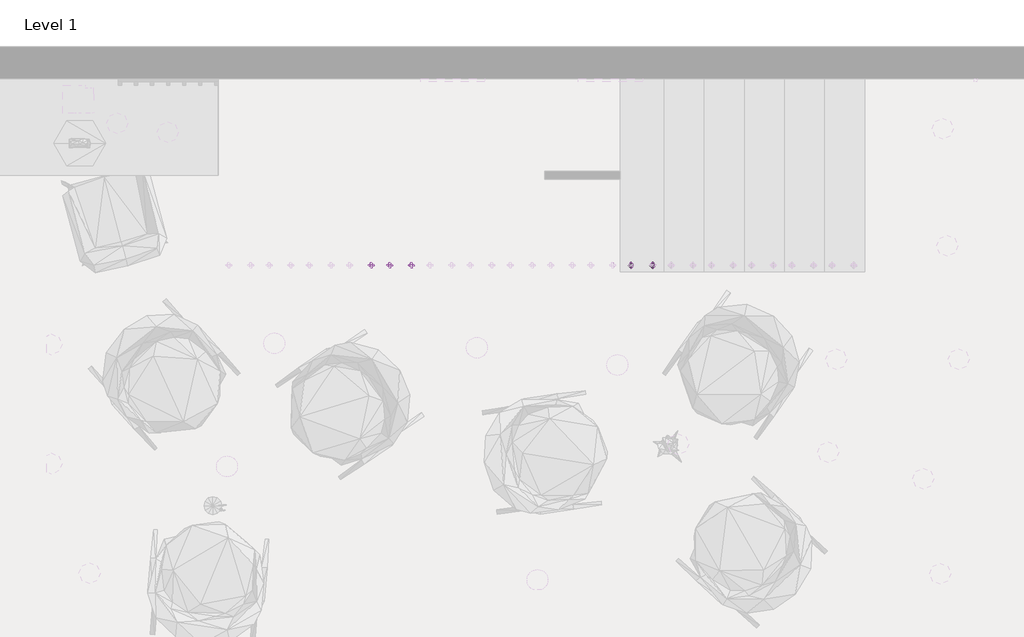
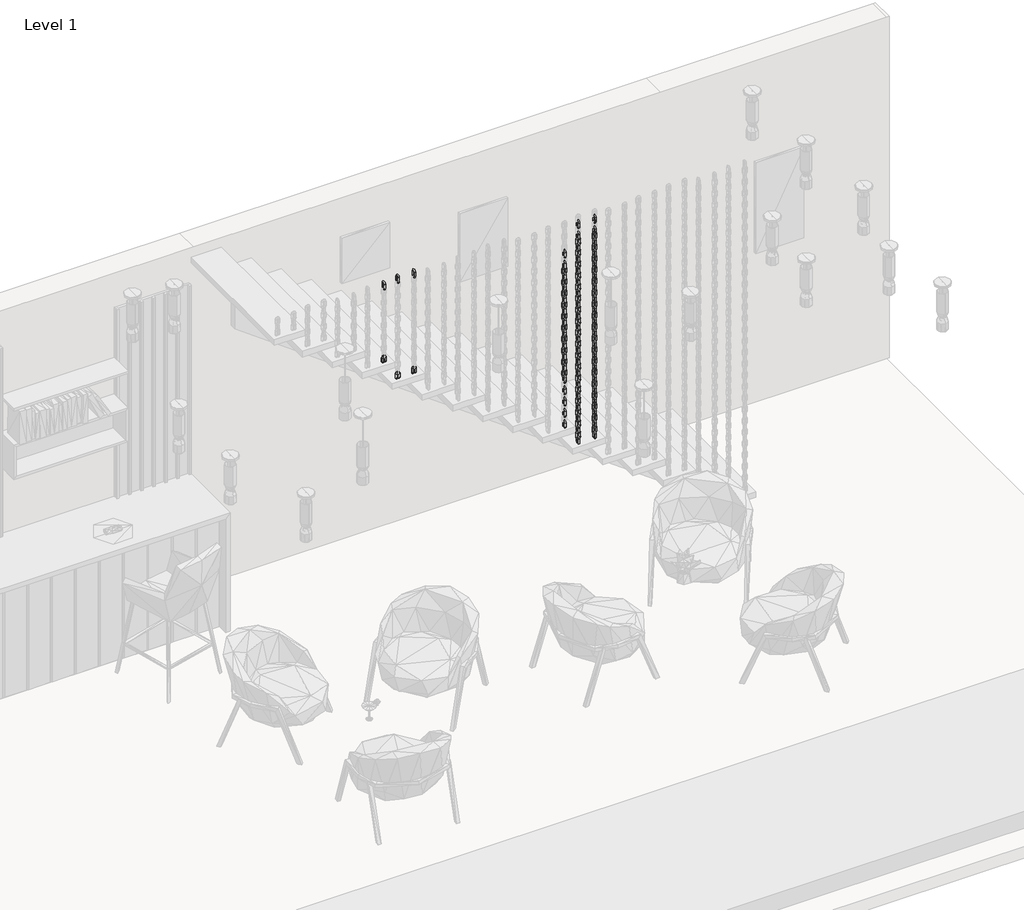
# One storey, part 6 of 12: 108 proxies.
"""IFC4 building model written with IfcOpenShell, lengths in millimetres."""

from ifc_helpers import new_model, si_unit, origin, place, context, project, spatial, transform, mapped, element, save
from components import family1_family1_50133a43, family1_family1_d3af85bb

model = new_model("IFC4")

# Units and contexts
model_context = context("Model", 3, world=origin())
ifc_project = project(units=[si_unit("LENGTHUNIT", "METRE", prefix="MILLI")], contexts=[model_context])

# Site, building, storey
site = spatial("IfcSite", under=ifc_project)
building = spatial("IfcBuilding", under=site)
storey = spatial("IfcBuildingStorey", under=building, Name="Level 1", Elevation=0.0)

# Proxies
placement = place(None, origin())
family1_family1_shape = family1_family1_50133a43(model_context)
element("IfcBuildingElementProxy", 1, Name="Family1 : Family1", ObjectType="Family1 : Family1", at=placement, inside=storey, context=model_context, shape_type="MappedRepresentation", body=[
    mapped(family1_family1_shape, transform((13750.1232124, 1139.760891, 326.9506853), x_axis=(-0.03315618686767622, 0.0, 0.9994501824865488), y_axis=(-0.9994501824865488, 0.0, -0.03315618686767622), z_axis=(0.0, -1.0, 0.0))),
])
element("IfcBuildingElementProxy", 2, Name="Family1 : Family1", ObjectType="Family1 : Family1", at=placement, inside=storey, context=model_context, shape_type="MappedRepresentation", body=[
    mapped(family1_family1_shape, transform((13750.1232124, 1139.760891, 426.9506853), x_axis=(-0.03315618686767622, 0.0, 0.9994501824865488), y_axis=(-0.9994501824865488, 0.0, -0.03315618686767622), z_axis=(0.0, -1.0, 0.0))),
])
element("IfcBuildingElementProxy", 3, Name="Family1 : Family1", ObjectType="Family1 : Family1", at=placement, inside=storey, context=model_context, shape_type="MappedRepresentation", body=[
    mapped(family1_family1_shape, transform((13750.1232124, 1139.760891, 526.9506853), x_axis=(-0.03315618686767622, 0.0, 0.9994501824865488), y_axis=(-0.9994501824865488, 0.0, -0.03315618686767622), z_axis=(0.0, -1.0, 0.0))),
])
element("IfcBuildingElementProxy", 4, Name="Family1 : Family1", ObjectType="Family1 : Family1", at=placement, inside=storey, context=model_context, shape_type="MappedRepresentation", body=[
    mapped(family1_family1_shape, transform((13750.1232124, 1139.760891, 626.9506853), x_axis=(-0.03315618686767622, 0.0, 0.9994501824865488), y_axis=(-0.9994501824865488, 0.0, -0.03315618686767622), z_axis=(0.0, -1.0, 0.0))),
])
element("IfcBuildingElementProxy", 5, Name="Family1 : Family1", ObjectType="Family1 : Family1", at=placement, inside=storey, context=model_context, shape_type="MappedRepresentation", body=[
    mapped(family1_family1_shape, transform((13750.1232124, 1139.760891, 726.9506853), x_axis=(-0.03315618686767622, 0.0, 0.9994501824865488), y_axis=(-0.9994501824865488, 0.0, -0.03315618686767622), z_axis=(0.0, -1.0, 0.0))),
])
element("IfcBuildingElementProxy", 6, Name="Family1 : Family1", ObjectType="Family1 : Family1", at=placement, inside=storey, context=model_context, shape_type="MappedRepresentation", body=[
    mapped(family1_family1_shape, transform((13750.1232124, 1139.760891, 826.9506853), x_axis=(-0.03315618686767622, 0.0, 0.9994501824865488), y_axis=(-0.9994501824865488, 0.0, -0.03315618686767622), z_axis=(0.0, -1.0, 0.0))),
])
element("IfcBuildingElementProxy", 7, Name="Family1 : Family1", ObjectType="Family1 : Family1", at=placement, inside=storey, context=model_context, shape_type="MappedRepresentation", body=[
    mapped(family1_family1_shape, transform((13750.1232124, 1139.760891, 926.9506853), x_axis=(-0.03315618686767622, 0.0, 0.9994501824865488), y_axis=(-0.9994501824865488, 0.0, -0.03315618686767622), z_axis=(0.0, -1.0, 0.0))),
])
element("IfcBuildingElementProxy", 8, Name="Family1 : Family1", ObjectType="Family1 : Family1", at=placement, inside=storey, context=model_context, shape_type="MappedRepresentation", body=[
    mapped(family1_family1_shape, transform((13750.1232124, 1139.760891, 1026.9506853), x_axis=(-0.03315618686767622, 0.0, 0.9994501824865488), y_axis=(-0.9994501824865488, 0.0, -0.03315618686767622), z_axis=(0.0, -1.0, 0.0))),
])
element("IfcBuildingElementProxy", 9, Name="Family1 : Family1", ObjectType="Family1 : Family1", at=placement, inside=storey, context=model_context, shape_type="MappedRepresentation", body=[
    mapped(family1_family1_shape, transform((13750.1232124, 1139.760891, 1126.9506853), x_axis=(-0.03315618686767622, 0.0, 0.9994501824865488), y_axis=(-0.9994501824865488, 0.0, -0.03315618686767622), z_axis=(0.0, -1.0, 0.0))),
])
element("IfcBuildingElementProxy", 10, Name="Family1 : Family1", ObjectType="Family1 : Family1", at=placement, inside=storey, context=model_context, shape_type="MappedRepresentation", body=[
    mapped(family1_family1_shape, transform((13750.1232124, 1139.760891, 1226.9506853), x_axis=(-0.03315618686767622, 0.0, 0.9994501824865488), y_axis=(-0.9994501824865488, 0.0, -0.03315618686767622), z_axis=(0.0, -1.0, 0.0))),
])
element("IfcBuildingElementProxy", 11, Name="Family1 : Family1", ObjectType="Family1 : Family1", at=placement, inside=storey, context=model_context, shape_type="MappedRepresentation", body=[
    mapped(family1_family1_shape, transform((13750.1232124, 1139.760891, 226.9506853), x_axis=(-0.03315618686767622, 0.0, 0.9994501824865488), y_axis=(-0.9994501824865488, 0.0, -0.03315618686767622), z_axis=(0.0, -1.0, 0.0))),
])
element("IfcBuildingElementProxy", 12, Name="Family1 : Family1", ObjectType="Family1 : Family1", at=placement, inside=storey, context=model_context, shape_type="MappedRepresentation", body=[
    mapped(family1_family1_shape, transform((13750.1232124, 1139.760891, 126.9506853), x_axis=(-0.03315618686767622, 0.0, 0.9994501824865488), y_axis=(-0.9994501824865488, 0.0, -0.03315618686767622), z_axis=(0.0, -1.0, 0.0))),
])
element("IfcBuildingElementProxy", 13, Name="Family1 : Family1", ObjectType="Family1 : Family1", at=placement, inside=storey, context=model_context, shape_type="MappedRepresentation", body=[
    mapped(family1_family1_shape, transform((13750.1232124, 1139.760891, 26.9506853), x_axis=(-0.03315618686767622, 0.0, 0.9994501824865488), y_axis=(-0.9994501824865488, 0.0, -0.03315618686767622), z_axis=(0.0, -1.0, 0.0))),
])
element("IfcBuildingElementProxy", 14, Name="Family1 : Family1", ObjectType="Family1 : Family1", at=placement, inside=storey, context=model_context, shape_type="MappedRepresentation", body=[
    mapped(family1_family1_shape, transform((13750.1232124, 1139.760891, -73.0493147), x_axis=(-0.03315618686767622, 0.0, 0.9994501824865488), y_axis=(-0.9994501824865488, 0.0, -0.03315618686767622), z_axis=(0.0, -1.0, 0.0))),
])
element("IfcBuildingElementProxy", 15, Name="Family1 : Family1", ObjectType="Family1 : Family1", at=placement, inside=storey, context=model_context, shape_type="MappedRepresentation", body=[
    mapped(family1_family1_shape, transform((13750.1232124, 1139.760891, -173.0493147), x_axis=(-0.03315618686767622, 0.0, 0.9994501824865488), y_axis=(-0.9994501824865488, 0.0, -0.03315618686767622), z_axis=(0.0, -1.0, 0.0))),
])
element("IfcBuildingElementProxy", 16, Name="Family1 : Family1", ObjectType="Family1 : Family1", at=placement, inside=storey, context=model_context, shape_type="MappedRepresentation", body=[
    mapped(family1_family1_shape, transform((13750.1232124, 1139.760891, 1326.9506853), x_axis=(-0.03315618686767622, 0.0, 0.9994501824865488), y_axis=(-0.9994501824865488, 0.0, -0.03315618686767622), z_axis=(0.0, -1.0, 0.0))),
])
element("IfcBuildingElementProxy", 17, Name="Family1 : Family1", ObjectType="Family1 : Family1", at=placement, inside=storey, context=model_context, shape_type="MappedRepresentation", body=[
    mapped(family1_family1_shape, transform((13750.1232124, 1139.760891, 1426.9506853), x_axis=(-0.03315618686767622, 0.0, 0.9994501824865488), y_axis=(-0.9994501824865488, 0.0, -0.03315618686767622), z_axis=(0.0, -1.0, 0.0))),
])
element("IfcBuildingElementProxy", 18, Name="Family1 : Family1", ObjectType="Family1 : Family1", at=placement, inside=storey, context=model_context, shape_type="MappedRepresentation", body=[
    mapped(family1_family1_shape, transform((13750.1232124, 1139.760891, 1526.9506853), x_axis=(-0.03315618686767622, 0.0, 0.9994501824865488), y_axis=(-0.9994501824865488, 0.0, -0.03315618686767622), z_axis=(0.0, -1.0, 0.0))),
])
element("IfcBuildingElementProxy", 19, Name="Family1 : Family1", ObjectType="Family1 : Family1", at=placement, inside=storey, context=model_context, shape_type="MappedRepresentation", body=[
    mapped(family1_family1_shape, transform((13750.1232124, 1139.760891, 1626.9506853), x_axis=(-0.03315618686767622, 0.0, 0.9994501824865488), y_axis=(-0.9994501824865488, 0.0, -0.03315618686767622), z_axis=(0.0, -1.0, 0.0))),
])
element("IfcBuildingElementProxy", 20, Name="Family1 : Family1", ObjectType="Family1 : Family1", at=placement, inside=storey, context=model_context, shape_type="MappedRepresentation", body=[
    mapped(family1_family1_shape, transform((13750.1232124, 1139.760891, 1726.9506853), x_axis=(-0.03315618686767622, 0.0, 0.9994501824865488), y_axis=(-0.9994501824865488, 0.0, -0.03315618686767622), z_axis=(0.0, -1.0, 0.0))),
])
element("IfcBuildingElementProxy", 21, Name="Family1 : Family1", ObjectType="Family1 : Family1", at=placement, inside=storey, context=model_context, shape_type="MappedRepresentation", body=[
    mapped(family1_family1_shape, transform((13615.1232124, 1139.760891, 326.9506853), x_axis=(-0.03315618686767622, 0.0, 0.9994501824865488), y_axis=(-0.9994501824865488, 0.0, -0.03315618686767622), z_axis=(0.0, -1.0, 0.0))),
])
element("IfcBuildingElementProxy", 22, Name="Family1 : Family1", ObjectType="Family1 : Family1", at=placement, inside=storey, context=model_context, shape_type="MappedRepresentation", body=[
    mapped(family1_family1_shape, transform((13615.1232124, 1139.760891, 426.9506853), x_axis=(-0.03315618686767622, 0.0, 0.9994501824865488), y_axis=(-0.9994501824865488, 0.0, -0.03315618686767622), z_axis=(0.0, -1.0, 0.0))),
])
element("IfcBuildingElementProxy", 23, Name="Family1 : Family1", ObjectType="Family1 : Family1", at=placement, inside=storey, context=model_context, shape_type="MappedRepresentation", body=[
    mapped(family1_family1_shape, transform((13615.1232124, 1139.760891, 526.9506853), x_axis=(-0.03315618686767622, 0.0, 0.9994501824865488), y_axis=(-0.9994501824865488, 0.0, -0.03315618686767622), z_axis=(0.0, -1.0, 0.0))),
])
element("IfcBuildingElementProxy", 24, Name="Family1 : Family1", ObjectType="Family1 : Family1", at=placement, inside=storey, context=model_context, shape_type="MappedRepresentation", body=[
    mapped(family1_family1_shape, transform((13615.1232124, 1139.760891, 626.9506853), x_axis=(-0.03315618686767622, 0.0, 0.9994501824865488), y_axis=(-0.9994501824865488, 0.0, -0.03315618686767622), z_axis=(0.0, -1.0, 0.0))),
])
element("IfcBuildingElementProxy", 25, Name="Family1 : Family1", ObjectType="Family1 : Family1", at=placement, inside=storey, context=model_context, shape_type="MappedRepresentation", body=[
    mapped(family1_family1_shape, transform((13615.1232124, 1139.760891, 726.9506853), x_axis=(-0.03315618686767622, 0.0, 0.9994501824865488), y_axis=(-0.9994501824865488, 0.0, -0.03315618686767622), z_axis=(0.0, -1.0, 0.0))),
])
element("IfcBuildingElementProxy", 26, Name="Family1 : Family1", ObjectType="Family1 : Family1", at=placement, inside=storey, context=model_context, shape_type="MappedRepresentation", body=[
    mapped(family1_family1_shape, transform((13615.1232124, 1139.760891, 826.9506853), x_axis=(-0.03315618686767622, 0.0, 0.9994501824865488), y_axis=(-0.9994501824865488, 0.0, -0.03315618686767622), z_axis=(0.0, -1.0, 0.0))),
])
element("IfcBuildingElementProxy", 27, Name="Family1 : Family1", ObjectType="Family1 : Family1", at=placement, inside=storey, context=model_context, shape_type="MappedRepresentation", body=[
    mapped(family1_family1_shape, transform((13615.1232124, 1139.760891, 926.9506853), x_axis=(-0.03315618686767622, 0.0, 0.9994501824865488), y_axis=(-0.9994501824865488, 0.0, -0.03315618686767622), z_axis=(0.0, -1.0, 0.0))),
])
element("IfcBuildingElementProxy", 28, Name="Family1 : Family1", ObjectType="Family1 : Family1", at=placement, inside=storey, context=model_context, shape_type="MappedRepresentation", body=[
    mapped(family1_family1_shape, transform((13615.1232124, 1139.760891, 1026.9506853), x_axis=(-0.03315618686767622, 0.0, 0.9994501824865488), y_axis=(-0.9994501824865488, 0.0, -0.03315618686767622), z_axis=(0.0, -1.0, 0.0))),
])
element("IfcBuildingElementProxy", 29, Name="Family1 : Family1", ObjectType="Family1 : Family1", at=placement, inside=storey, context=model_context, shape_type="MappedRepresentation", body=[
    mapped(family1_family1_shape, transform((13615.1232124, 1139.760891, 1126.9506853), x_axis=(-0.03315618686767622, 0.0, 0.9994501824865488), y_axis=(-0.9994501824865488, 0.0, -0.03315618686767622), z_axis=(0.0, -1.0, 0.0))),
])
element("IfcBuildingElementProxy", 30, Name="Family1 : Family1", ObjectType="Family1 : Family1", at=placement, inside=storey, context=model_context, shape_type="MappedRepresentation", body=[
    mapped(family1_family1_shape, transform((13615.1232124, 1139.760891, 1226.9506853), x_axis=(-0.03315618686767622, 0.0, 0.9994501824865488), y_axis=(-0.9994501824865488, 0.0, -0.03315618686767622), z_axis=(0.0, -1.0, 0.0))),
])
element("IfcBuildingElementProxy", 31, Name="Family1 : Family1", ObjectType="Family1 : Family1", at=placement, inside=storey, context=model_context, shape_type="MappedRepresentation", body=[
    mapped(family1_family1_shape, transform((13615.1232124, 1139.760891, 226.9506853), x_axis=(-0.03315618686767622, 0.0, 0.9994501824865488), y_axis=(-0.9994501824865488, 0.0, -0.03315618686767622), z_axis=(0.0, -1.0, 0.0))),
])
element("IfcBuildingElementProxy", 32, Name="Family1 : Family1", ObjectType="Family1 : Family1", at=placement, inside=storey, context=model_context, shape_type="MappedRepresentation", body=[
    mapped(family1_family1_shape, transform((13615.1232124, 1139.760891, 126.9506853), x_axis=(-0.03315618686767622, 0.0, 0.9994501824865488), y_axis=(-0.9994501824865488, 0.0, -0.03315618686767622), z_axis=(0.0, -1.0, 0.0))),
])
element("IfcBuildingElementProxy", 33, Name="Family1 : Family1", ObjectType="Family1 : Family1", at=placement, inside=storey, context=model_context, shape_type="MappedRepresentation", body=[
    mapped(family1_family1_shape, transform((13615.1232124, 1139.760891, 26.9506853), x_axis=(-0.03315618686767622, 0.0, 0.9994501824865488), y_axis=(-0.9994501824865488, 0.0, -0.03315618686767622), z_axis=(0.0, -1.0, 0.0))),
])
element("IfcBuildingElementProxy", 34, Name="Family1 : Family1", ObjectType="Family1 : Family1", at=placement, inside=storey, context=model_context, shape_type="MappedRepresentation", body=[
    mapped(family1_family1_shape, transform((13615.1232124, 1139.760891, -73.0493147), x_axis=(-0.03315618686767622, 0.0, 0.9994501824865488), y_axis=(-0.9994501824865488, 0.0, -0.03315618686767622), z_axis=(0.0, -1.0, 0.0))),
])
element("IfcBuildingElementProxy", 35, Name="Family1 : Family1", ObjectType="Family1 : Family1", at=placement, inside=storey, context=model_context, shape_type="MappedRepresentation", body=[
    mapped(family1_family1_shape, transform((13615.1232124, 1139.760891, -173.0493147), x_axis=(-0.03315618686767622, 0.0, 0.9994501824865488), y_axis=(-0.9994501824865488, 0.0, -0.03315618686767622), z_axis=(0.0, -1.0, 0.0))),
])
element("IfcBuildingElementProxy", 36, Name="Family1 : Family1", ObjectType="Family1 : Family1", at=placement, inside=storey, context=model_context, shape_type="MappedRepresentation", body=[
    mapped(family1_family1_shape, transform((13615.1232124, 1139.760891, 1326.9506853), x_axis=(-0.03315618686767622, 0.0, 0.9994501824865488), y_axis=(-0.9994501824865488, 0.0, -0.03315618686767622), z_axis=(0.0, -1.0, 0.0))),
])
element("IfcBuildingElementProxy", 37, Name="Family1 : Family1", ObjectType="Family1 : Family1", at=placement, inside=storey, context=model_context, shape_type="MappedRepresentation", body=[
    mapped(family1_family1_shape, transform((13615.1232124, 1139.760891, 1426.9506853), x_axis=(-0.03315618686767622, 0.0, 0.9994501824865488), y_axis=(-0.9994501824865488, 0.0, -0.03315618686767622), z_axis=(0.0, -1.0, 0.0))),
])
element("IfcBuildingElementProxy", 38, Name="Family1 : Family1", ObjectType="Family1 : Family1", at=placement, inside=storey, context=model_context, shape_type="MappedRepresentation", body=[
    mapped(family1_family1_shape, transform((13615.1232124, 1139.760891, 1526.9506853), x_axis=(-0.03315618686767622, 0.0, 0.9994501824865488), y_axis=(-0.9994501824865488, 0.0, -0.03315618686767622), z_axis=(0.0, -1.0, 0.0))),
])
element("IfcBuildingElementProxy", 39, Name="Family1 : Family1", ObjectType="Family1 : Family1", at=placement, inside=storey, context=model_context, shape_type="MappedRepresentation", body=[
    mapped(family1_family1_shape, transform((13615.1232124, 1139.760891, 1626.9506853), x_axis=(-0.03315618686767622, 0.0, 0.9994501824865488), y_axis=(-0.9994501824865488, 0.0, -0.03315618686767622), z_axis=(0.0, -1.0, 0.0))),
])
element("IfcBuildingElementProxy", 40, Name="Family1 : Family1", ObjectType="Family1 : Family1", at=placement, inside=storey, context=model_context, shape_type="MappedRepresentation", body=[
    mapped(family1_family1_shape, transform((13615.1232124, 1139.760891, 1726.9506853), x_axis=(-0.03315618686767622, 0.0, 0.9994501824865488), y_axis=(-0.9994501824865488, 0.0, -0.03315618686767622), z_axis=(0.0, -1.0, 0.0))),
])
element("IfcBuildingElementProxy", 41, Name="Family1 : Family1", ObjectType="Family1 : Family1", at=placement, inside=storey, context=model_context, shape_type="MappedRepresentation", body=[
    mapped(family1_family1_shape, transform((13500.1232124, 1139.760891, 409.3036265), x_axis=(-0.0331561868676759, 0.0, 0.9994501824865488), y_axis=(-0.9994501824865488, 0.0, -0.0331561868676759), z_axis=(0.0, -1.0, 0.0))),
])
element("IfcBuildingElementProxy", 42, Name="Family1 : Family1", ObjectType="Family1 : Family1", at=placement, inside=storey, context=model_context, shape_type="MappedRepresentation", body=[
    mapped(family1_family1_shape, transform((13500.1232124, 1139.760891, 509.3036265), x_axis=(-0.0331561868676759, 0.0, 0.9994501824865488), y_axis=(-0.9994501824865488, 0.0, -0.0331561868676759), z_axis=(0.0, -1.0, 0.0))),
])
element("IfcBuildingElementProxy", 43, Name="Family1 : Family1", ObjectType="Family1 : Family1", at=placement, inside=storey, context=model_context, shape_type="MappedRepresentation", body=[
    mapped(family1_family1_shape, transform((13500.1232124, 1139.760891, 609.3036265), x_axis=(-0.0331561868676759, 0.0, 0.9994501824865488), y_axis=(-0.9994501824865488, 0.0, -0.0331561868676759), z_axis=(0.0, -1.0, 0.0))),
])
element("IfcBuildingElementProxy", 44, Name="Family1 : Family1", ObjectType="Family1 : Family1", at=placement, inside=storey, context=model_context, shape_type="MappedRepresentation", body=[
    mapped(family1_family1_shape, transform((13500.1232124, 1139.760891, 709.3036265), x_axis=(-0.0331561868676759, 0.0, 0.9994501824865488), y_axis=(-0.9994501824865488, 0.0, -0.0331561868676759), z_axis=(0.0, -1.0, 0.0))),
])
element("IfcBuildingElementProxy", 45, Name="Family1 : Family1", ObjectType="Family1 : Family1", at=placement, inside=storey, context=model_context, shape_type="MappedRepresentation", body=[
    mapped(family1_family1_shape, transform((13500.1232124, 1139.760891, 809.3036265), x_axis=(-0.0331561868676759, 0.0, 0.9994501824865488), y_axis=(-0.9994501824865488, 0.0, -0.0331561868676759), z_axis=(0.0, -1.0, 0.0))),
])
element("IfcBuildingElementProxy", 46, Name="Family1 : Family1", ObjectType="Family1 : Family1", at=placement, inside=storey, context=model_context, shape_type="MappedRepresentation", body=[
    mapped(family1_family1_shape, transform((13500.1232124, 1139.760891, 909.3036265), x_axis=(-0.0331561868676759, 0.0, 0.9994501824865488), y_axis=(-0.9994501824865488, 0.0, -0.0331561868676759), z_axis=(0.0, -1.0, 0.0))),
])
element("IfcBuildingElementProxy", 47, Name="Family1 : Family1", ObjectType="Family1 : Family1", at=placement, inside=storey, context=model_context, shape_type="MappedRepresentation", body=[
    mapped(family1_family1_shape, transform((13500.1232124, 1139.760891, 1009.3036265), x_axis=(-0.0331561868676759, 0.0, 0.9994501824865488), y_axis=(-0.9994501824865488, 0.0, -0.0331561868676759), z_axis=(0.0, -1.0, 0.0))),
])
element("IfcBuildingElementProxy", 48, Name="Family1 : Family1", ObjectType="Family1 : Family1", at=placement, inside=storey, context=model_context, shape_type="MappedRepresentation", body=[
    mapped(family1_family1_shape, transform((13500.1232124, 1139.760891, 1109.3036265), x_axis=(-0.03315618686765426, 0.0, 0.9994501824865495), y_axis=(-0.9994501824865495, 0.0, -0.03315618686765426), z_axis=(0.0, -1.0, 0.0))),
])
element("IfcBuildingElementProxy", 49, Name="Family1 : Family1", ObjectType="Family1 : Family1", at=placement, inside=storey, context=model_context, shape_type="MappedRepresentation", body=[
    mapped(family1_family1_shape, transform((13500.1232124, 1139.760891, 1209.3036265), x_axis=(-0.0331561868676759, 0.0, 0.9994501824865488), y_axis=(-0.9994501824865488, 0.0, -0.0331561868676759), z_axis=(0.0, -1.0, 0.0))),
])
element("IfcBuildingElementProxy", 50, Name="Family1 : Family1", ObjectType="Family1 : Family1", at=placement, inside=storey, context=model_context, shape_type="MappedRepresentation", body=[
    mapped(family1_family1_shape, transform((13500.1232124, 1139.760891, 1309.3036265), x_axis=(-0.0331561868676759, 0.0, 0.9994501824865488), y_axis=(-0.9994501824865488, 0.0, -0.0331561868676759), z_axis=(0.0, -1.0, 0.0))),
])
element("IfcBuildingElementProxy", 51, Name="Family1 : Family1", ObjectType="Family1 : Family1", at=placement, inside=storey, context=model_context, shape_type="MappedRepresentation", body=[
    mapped(family1_family1_shape, transform((13500.1232124, 1139.760891, 309.3036265), x_axis=(-0.0331561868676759, 0.0, 0.9994501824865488), y_axis=(-0.9994501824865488, 0.0, -0.0331561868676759), z_axis=(0.0, -1.0, 0.0))),
])
element("IfcBuildingElementProxy", 52, Name="Family1 : Family1", ObjectType="Family1 : Family1", at=placement, inside=storey, context=model_context, shape_type="MappedRepresentation", body=[
    mapped(family1_family1_shape, transform((13500.1232124, 1139.760891, 209.3036265), x_axis=(-0.03315618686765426, 0.0, 0.9994501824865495), y_axis=(-0.9994501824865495, 0.0, -0.03315618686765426), z_axis=(0.0, -1.0, 0.0))),
])
element("IfcBuildingElementProxy", 53, Name="Family1 : Family1", ObjectType="Family1 : Family1", at=placement, inside=storey, context=model_context, shape_type="MappedRepresentation", body=[
    mapped(family1_family1_shape, transform((13500.1232124, 1139.760891, 109.3036265), x_axis=(-0.0331561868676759, 0.0, 0.9994501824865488), y_axis=(-0.9994501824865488, 0.0, -0.0331561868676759), z_axis=(0.0, -1.0, 0.0))),
])
element("IfcBuildingElementProxy", 54, Name="Family1 : Family1", ObjectType="Family1 : Family1", at=placement, inside=storey, context=model_context, shape_type="MappedRepresentation", body=[
    mapped(family1_family1_shape, transform((13500.1232124, 1139.760891, 9.3036265), x_axis=(-0.0331561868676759, 0.0, 0.9994501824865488), y_axis=(-0.9994501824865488, 0.0, -0.0331561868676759), z_axis=(0.0, -1.0, 0.0))),
])
element("IfcBuildingElementProxy", 55, Name="Family1 : Family1", ObjectType="Family1 : Family1", at=placement, inside=storey, context=model_context, shape_type="MappedRepresentation", body=[
    mapped(family1_family1_shape, transform((13500.1232124, 1139.760891, 1409.3036265), x_axis=(-0.0331561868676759, 0.0, 0.9994501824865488), y_axis=(-0.9994501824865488, 0.0, -0.0331561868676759), z_axis=(0.0, -1.0, 0.0))),
])
element("IfcBuildingElementProxy", 56, Name="Family1 : Family1", ObjectType="Family1 : Family1", at=placement, inside=storey, context=model_context, shape_type="MappedRepresentation", body=[
    mapped(family1_family1_shape, transform((13500.1232124, 1139.760891, 1509.3036265), x_axis=(-0.0331561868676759, 0.0, 0.9994501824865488), y_axis=(-0.9994501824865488, 0.0, -0.0331561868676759), z_axis=(0.0, -1.0, 0.0))),
])
element("IfcBuildingElementProxy", 57, Name="Family1 : Family1", ObjectType="Family1 : Family1", at=placement, inside=storey, context=model_context, shape_type="MappedRepresentation", body=[
    mapped(family1_family1_shape, transform((12250.1232124, 1139.760891, 1771.0683324), x_axis=(-0.033156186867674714, 0.0, 0.9994501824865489), y_axis=(-0.9994501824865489, 0.0, -0.033156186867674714), z_axis=(0.0, -1.0, 0.0))),
])
element("IfcBuildingElementProxy", 58, Name="Family1 : Family1", ObjectType="Family1 : Family1", at=placement, inside=storey, context=model_context, shape_type="MappedRepresentation", body=[
    mapped(family1_family1_shape, transform((12115.1232124, 1139.760891, 1771.0683324), x_axis=(-0.033156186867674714, 0.0, 0.9994501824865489), y_axis=(-0.9994501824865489, 0.0, -0.033156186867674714), z_axis=(0.0, -1.0, 0.0))),
])
element("IfcBuildingElementProxy", 59, Name="Family1 : Family1", ObjectType="Family1 : Family1", at=placement, inside=storey, context=model_context, shape_type="MappedRepresentation", body=[
    mapped(family1_family1_shape, transform((12000.1232124, 1139.760891, 1753.4212736), x_axis=(-0.03315618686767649, 0.0, 0.9994501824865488), y_axis=(-0.9994501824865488, 0.0, -0.03315618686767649), z_axis=(0.0, -1.0, 0.0))),
])
family1_family1_2_shape = family1_family1_d3af85bb(model_context)
element("IfcBuildingElementProxy", 60, Name="Family1 : Family1", ObjectType="Family1 : Family1", at=placement, inside=storey, context=model_context, shape_type="MappedRepresentation", body=[
    mapped(family1_family1_2_shape, transform((13750.1232124, 1139.760891, 376.9506853), x_axis=(-0.03315618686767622, 0.0, 0.9994501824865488), y_axis=(-0.9994501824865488, 0.0, -0.03315618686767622), z_axis=(0.0, -1.0, 0.0))),
])
element("IfcBuildingElementProxy", 61, Name="Family1 : Family1", ObjectType="Family1 : Family1", at=placement, inside=storey, context=model_context, shape_type="MappedRepresentation", body=[
    mapped(family1_family1_2_shape, transform((13750.1232124, 1139.760891, 476.9506853), x_axis=(-0.03315618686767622, 0.0, 0.9994501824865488), y_axis=(-0.9994501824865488, 0.0, -0.03315618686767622), z_axis=(0.0, -1.0, 0.0))),
])
element("IfcBuildingElementProxy", 62, Name="Family1 : Family1", ObjectType="Family1 : Family1", at=placement, inside=storey, context=model_context, shape_type="MappedRepresentation", body=[
    mapped(family1_family1_2_shape, transform((13750.1232124, 1139.760891, 576.9506853), x_axis=(-0.03315618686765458, 0.0, 0.9994501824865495), y_axis=(-0.9994501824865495, 0.0, -0.03315618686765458), z_axis=(0.0, -1.0, 0.0))),
])
element("IfcBuildingElementProxy", 63, Name="Family1 : Family1", ObjectType="Family1 : Family1", at=placement, inside=storey, context=model_context, shape_type="MappedRepresentation", body=[
    mapped(family1_family1_2_shape, transform((13750.1232124, 1139.760891, 676.9506853), x_axis=(-0.03315618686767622, 0.0, 0.9994501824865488), y_axis=(-0.9994501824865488, 0.0, -0.03315618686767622), z_axis=(0.0, -1.0, 0.0))),
])
element("IfcBuildingElementProxy", 64, Name="Family1 : Family1", ObjectType="Family1 : Family1", at=placement, inside=storey, context=model_context, shape_type="MappedRepresentation", body=[
    mapped(family1_family1_2_shape, transform((13750.1232124, 1139.760891, 776.9506853), x_axis=(-0.03315618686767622, 0.0, 0.9994501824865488), y_axis=(-0.9994501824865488, 0.0, -0.03315618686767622), z_axis=(0.0, -1.0, 0.0))),
])
element("IfcBuildingElementProxy", 65, Name="Family1 : Family1", ObjectType="Family1 : Family1", at=placement, inside=storey, context=model_context, shape_type="MappedRepresentation", body=[
    mapped(family1_family1_2_shape, transform((13750.1232124, 1139.760891, 876.9506853), x_axis=(-0.03315618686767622, 0.0, 0.9994501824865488), y_axis=(-0.9994501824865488, 0.0, -0.03315618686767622), z_axis=(0.0, -1.0, 0.0))),
])
element("IfcBuildingElementProxy", 66, Name="Family1 : Family1", ObjectType="Family1 : Family1", at=placement, inside=storey, context=model_context, shape_type="MappedRepresentation", body=[
    mapped(family1_family1_2_shape, transform((13750.1232124, 1139.760891, 976.9506853), x_axis=(-0.03315618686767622, 0.0, 0.9994501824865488), y_axis=(-0.9994501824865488, 0.0, -0.03315618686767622), z_axis=(0.0, -1.0, 0.0))),
])
element("IfcBuildingElementProxy", 67, Name="Family1 : Family1", ObjectType="Family1 : Family1", at=placement, inside=storey, context=model_context, shape_type="MappedRepresentation", body=[
    mapped(family1_family1_2_shape, transform((13750.1232124, 1139.760891, 1076.9506853), x_axis=(-0.03315618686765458, 0.0, 0.9994501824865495), y_axis=(-0.9994501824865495, 0.0, -0.03315618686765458), z_axis=(0.0, -1.0, 0.0))),
])
element("IfcBuildingElementProxy", 68, Name="Family1 : Family1", ObjectType="Family1 : Family1", at=placement, inside=storey, context=model_context, shape_type="MappedRepresentation", body=[
    mapped(family1_family1_2_shape, transform((13750.1232124, 1139.760891, 1176.9506853), x_axis=(-0.03315618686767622, 0.0, 0.9994501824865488), y_axis=(-0.9994501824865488, 0.0, -0.03315618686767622), z_axis=(0.0, -1.0, 0.0))),
])
element("IfcBuildingElementProxy", 69, Name="Family1 : Family1", ObjectType="Family1 : Family1", at=placement, inside=storey, context=model_context, shape_type="MappedRepresentation", body=[
    mapped(family1_family1_2_shape, transform((13750.1232124, 1139.760891, 1276.9506853), x_axis=(-0.03315618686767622, 0.0, 0.9994501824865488), y_axis=(-0.9994501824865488, 0.0, -0.03315618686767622), z_axis=(0.0, -1.0, 0.0))),
])
element("IfcBuildingElementProxy", 70, Name="Family1 : Family1", ObjectType="Family1 : Family1", at=placement, inside=storey, context=model_context, shape_type="MappedRepresentation", body=[
    mapped(family1_family1_2_shape, transform((13750.1232124, 1139.760891, 276.9506853), x_axis=(-0.03315618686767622, 0.0, 0.9994501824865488), y_axis=(-0.9994501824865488, 0.0, -0.03315618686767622), z_axis=(0.0, -1.0, 0.0))),
])
element("IfcBuildingElementProxy", 71, Name="Family1 : Family1", ObjectType="Family1 : Family1", at=placement, inside=storey, context=model_context, shape_type="MappedRepresentation", body=[
    mapped(family1_family1_2_shape, transform((13750.1232124, 1139.760891, 176.9506853), x_axis=(-0.03315618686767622, 0.0, 0.9994501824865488), y_axis=(-0.9994501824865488, 0.0, -0.03315618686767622), z_axis=(0.0, -1.0, 0.0))),
])
element("IfcBuildingElementProxy", 72, Name="Family1 : Family1", ObjectType="Family1 : Family1", at=placement, inside=storey, context=model_context, shape_type="MappedRepresentation", body=[
    mapped(family1_family1_2_shape, transform((13750.1232124, 1139.760891, 76.9506853), x_axis=(-0.03315618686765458, 0.0, 0.9994501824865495), y_axis=(-0.9994501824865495, 0.0, -0.03315618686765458), z_axis=(0.0, -1.0, 0.0))),
])
element("IfcBuildingElementProxy", 73, Name="Family1 : Family1", ObjectType="Family1 : Family1", at=placement, inside=storey, context=model_context, shape_type="MappedRepresentation", body=[
    mapped(family1_family1_2_shape, transform((13750.1232124, 1139.760891, -23.0493147), x_axis=(-0.03315618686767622, 0.0, 0.9994501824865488), y_axis=(-0.9994501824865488, 0.0, -0.03315618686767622), z_axis=(0.0, -1.0, 0.0))),
])
element("IfcBuildingElementProxy", 74, Name="Family1 : Family1", ObjectType="Family1 : Family1", at=placement, inside=storey, context=model_context, shape_type="MappedRepresentation", body=[
    mapped(family1_family1_2_shape, transform((13750.1232124, 1139.760891, -123.0493147), x_axis=(-0.03315618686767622, 0.0, 0.9994501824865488), y_axis=(-0.9994501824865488, 0.0, -0.03315618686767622), z_axis=(0.0, -1.0, 0.0))),
])
element("IfcBuildingElementProxy", 75, Name="Family1 : Family1", ObjectType="Family1 : Family1", at=placement, inside=storey, context=model_context, shape_type="MappedRepresentation", body=[
    mapped(family1_family1_2_shape, transform((13750.1232124, 1139.760891, 1376.9506853), x_axis=(-0.03315618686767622, 0.0, 0.9994501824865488), y_axis=(-0.9994501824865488, 0.0, -0.03315618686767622), z_axis=(0.0, -1.0, 0.0))),
])
element("IfcBuildingElementProxy", 76, Name="Family1 : Family1", ObjectType="Family1 : Family1", at=placement, inside=storey, context=model_context, shape_type="MappedRepresentation", body=[
    mapped(family1_family1_2_shape, transform((13750.1232124, 1139.760891, 1476.9506853), x_axis=(-0.03315618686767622, 0.0, 0.9994501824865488), y_axis=(-0.9994501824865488, 0.0, -0.03315618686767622), z_axis=(0.0, -1.0, 0.0))),
])
element("IfcBuildingElementProxy", 77, Name="Family1 : Family1", ObjectType="Family1 : Family1", at=placement, inside=storey, context=model_context, shape_type="MappedRepresentation", body=[
    mapped(family1_family1_2_shape, transform((13750.1232124, 1139.760891, 1576.9506853), x_axis=(-0.03315618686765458, 0.0, 0.9994501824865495), y_axis=(-0.9994501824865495, 0.0, -0.03315618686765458), z_axis=(0.0, -1.0, 0.0))),
])
element("IfcBuildingElementProxy", 78, Name="Family1 : Family1", ObjectType="Family1 : Family1", at=placement, inside=storey, context=model_context, shape_type="MappedRepresentation", body=[
    mapped(family1_family1_2_shape, transform((13615.1232124, 1139.760891, 376.9506853), x_axis=(-0.03315618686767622, 0.0, 0.9994501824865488), y_axis=(-0.9994501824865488, 0.0, -0.03315618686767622), z_axis=(0.0, -1.0, 0.0))),
])
element("IfcBuildingElementProxy", 79, Name="Family1 : Family1", ObjectType="Family1 : Family1", at=placement, inside=storey, context=model_context, shape_type="MappedRepresentation", body=[
    mapped(family1_family1_2_shape, transform((13615.1232124, 1139.760891, 476.9506853), x_axis=(-0.03315618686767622, 0.0, 0.9994501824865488), y_axis=(-0.9994501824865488, 0.0, -0.03315618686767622), z_axis=(0.0, -1.0, 0.0))),
])
element("IfcBuildingElementProxy", 80, Name="Family1 : Family1", ObjectType="Family1 : Family1", at=placement, inside=storey, context=model_context, shape_type="MappedRepresentation", body=[
    mapped(family1_family1_2_shape, transform((13615.1232124, 1139.760891, 576.9506853), x_axis=(-0.03315618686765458, 0.0, 0.9994501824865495), y_axis=(-0.9994501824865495, 0.0, -0.03315618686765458), z_axis=(0.0, -1.0, 0.0))),
])
element("IfcBuildingElementProxy", 81, Name="Family1 : Family1", ObjectType="Family1 : Family1", at=placement, inside=storey, context=model_context, shape_type="MappedRepresentation", body=[
    mapped(family1_family1_2_shape, transform((13615.1232124, 1139.760891, 676.9506853), x_axis=(-0.03315618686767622, 0.0, 0.9994501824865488), y_axis=(-0.9994501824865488, 0.0, -0.03315618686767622), z_axis=(0.0, -1.0, 0.0))),
])
element("IfcBuildingElementProxy", 82, Name="Family1 : Family1", ObjectType="Family1 : Family1", at=placement, inside=storey, context=model_context, shape_type="MappedRepresentation", body=[
    mapped(family1_family1_2_shape, transform((13615.1232124, 1139.760891, 776.9506853), x_axis=(-0.03315618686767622, 0.0, 0.9994501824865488), y_axis=(-0.9994501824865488, 0.0, -0.03315618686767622), z_axis=(0.0, -1.0, 0.0))),
])
element("IfcBuildingElementProxy", 83, Name="Family1 : Family1", ObjectType="Family1 : Family1", at=placement, inside=storey, context=model_context, shape_type="MappedRepresentation", body=[
    mapped(family1_family1_2_shape, transform((13615.1232124, 1139.760891, 876.9506853), x_axis=(-0.03315618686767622, 0.0, 0.9994501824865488), y_axis=(-0.9994501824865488, 0.0, -0.03315618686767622), z_axis=(0.0, -1.0, 0.0))),
])
element("IfcBuildingElementProxy", 84, Name="Family1 : Family1", ObjectType="Family1 : Family1", at=placement, inside=storey, context=model_context, shape_type="MappedRepresentation", body=[
    mapped(family1_family1_2_shape, transform((13615.1232124, 1139.760891, 976.9506853), x_axis=(-0.03315618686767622, 0.0, 0.9994501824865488), y_axis=(-0.9994501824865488, 0.0, -0.03315618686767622), z_axis=(0.0, -1.0, 0.0))),
])
element("IfcBuildingElementProxy", 85, Name="Family1 : Family1", ObjectType="Family1 : Family1", at=placement, inside=storey, context=model_context, shape_type="MappedRepresentation", body=[
    mapped(family1_family1_2_shape, transform((13615.1232124, 1139.760891, 1076.9506853), x_axis=(-0.03315618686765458, 0.0, 0.9994501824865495), y_axis=(-0.9994501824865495, 0.0, -0.03315618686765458), z_axis=(0.0, -1.0, 0.0))),
])
element("IfcBuildingElementProxy", 86, Name="Family1 : Family1", ObjectType="Family1 : Family1", at=placement, inside=storey, context=model_context, shape_type="MappedRepresentation", body=[
    mapped(family1_family1_2_shape, transform((13615.1232124, 1139.760891, 1176.9506853), x_axis=(-0.03315618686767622, 0.0, 0.9994501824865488), y_axis=(-0.9994501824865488, 0.0, -0.03315618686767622), z_axis=(0.0, -1.0, 0.0))),
])
element("IfcBuildingElementProxy", 87, Name="Family1 : Family1", ObjectType="Family1 : Family1", at=placement, inside=storey, context=model_context, shape_type="MappedRepresentation", body=[
    mapped(family1_family1_2_shape, transform((13615.1232124, 1139.760891, 1276.9506853), x_axis=(-0.03315618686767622, 0.0, 0.9994501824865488), y_axis=(-0.9994501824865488, 0.0, -0.03315618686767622), z_axis=(0.0, -1.0, 0.0))),
])
element("IfcBuildingElementProxy", 88, Name="Family1 : Family1", ObjectType="Family1 : Family1", at=placement, inside=storey, context=model_context, shape_type="MappedRepresentation", body=[
    mapped(family1_family1_2_shape, transform((13615.1232124, 1139.760891, 276.9506853), x_axis=(-0.03315618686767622, 0.0, 0.9994501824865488), y_axis=(-0.9994501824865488, 0.0, -0.03315618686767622), z_axis=(0.0, -1.0, 0.0))),
])
element("IfcBuildingElementProxy", 89, Name="Family1 : Family1", ObjectType="Family1 : Family1", at=placement, inside=storey, context=model_context, shape_type="MappedRepresentation", body=[
    mapped(family1_family1_2_shape, transform((13615.1232124, 1139.760891, 176.9506853), x_axis=(-0.03315618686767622, 0.0, 0.9994501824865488), y_axis=(-0.9994501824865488, 0.0, -0.03315618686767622), z_axis=(0.0, -1.0, 0.0))),
])
element("IfcBuildingElementProxy", 90, Name="Family1 : Family1", ObjectType="Family1 : Family1", at=placement, inside=storey, context=model_context, shape_type="MappedRepresentation", body=[
    mapped(family1_family1_2_shape, transform((13615.1232124, 1139.760891, 76.9506853), x_axis=(-0.03315618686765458, 0.0, 0.9994501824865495), y_axis=(-0.9994501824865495, 0.0, -0.03315618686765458), z_axis=(0.0, -1.0, 0.0))),
])
element("IfcBuildingElementProxy", 91, Name="Family1 : Family1", ObjectType="Family1 : Family1", at=placement, inside=storey, context=model_context, shape_type="MappedRepresentation", body=[
    mapped(family1_family1_2_shape, transform((13615.1232124, 1139.760891, -23.0493147), x_axis=(-0.03315618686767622, 0.0, 0.9994501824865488), y_axis=(-0.9994501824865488, 0.0, -0.03315618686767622), z_axis=(0.0, -1.0, 0.0))),
])
element("IfcBuildingElementProxy", 92, Name="Family1 : Family1", ObjectType="Family1 : Family1", at=placement, inside=storey, context=model_context, shape_type="MappedRepresentation", body=[
    mapped(family1_family1_2_shape, transform((13615.1232124, 1139.760891, -123.0493147), x_axis=(-0.03315618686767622, 0.0, 0.9994501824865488), y_axis=(-0.9994501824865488, 0.0, -0.03315618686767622), z_axis=(0.0, -1.0, 0.0))),
])
element("IfcBuildingElementProxy", 93, Name="Family1 : Family1", ObjectType="Family1 : Family1", at=placement, inside=storey, context=model_context, shape_type="MappedRepresentation", body=[
    mapped(family1_family1_2_shape, transform((13615.1232124, 1139.760891, 1376.9506853), x_axis=(-0.03315618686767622, 0.0, 0.9994501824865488), y_axis=(-0.9994501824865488, 0.0, -0.03315618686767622), z_axis=(0.0, -1.0, 0.0))),
])
element("IfcBuildingElementProxy", 94, Name="Family1 : Family1", ObjectType="Family1 : Family1", at=placement, inside=storey, context=model_context, shape_type="MappedRepresentation", body=[
    mapped(family1_family1_2_shape, transform((13615.1232124, 1139.760891, 1476.9506853), x_axis=(-0.03315618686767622, 0.0, 0.9994501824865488), y_axis=(-0.9994501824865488, 0.0, -0.03315618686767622), z_axis=(0.0, -1.0, 0.0))),
])
element("IfcBuildingElementProxy", 95, Name="Family1 : Family1", ObjectType="Family1 : Family1", at=placement, inside=storey, context=model_context, shape_type="MappedRepresentation", body=[
    mapped(family1_family1_2_shape, transform((13615.1232124, 1139.760891, 1576.9506853), x_axis=(-0.03315618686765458, 0.0, 0.9994501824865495), y_axis=(-0.9994501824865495, 0.0, -0.03315618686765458), z_axis=(0.0, -1.0, 0.0))),
])
element("IfcBuildingElementProxy", 96, Name="Family1 : Family1", ObjectType="Family1 : Family1", at=placement, inside=storey, context=model_context, shape_type="MappedRepresentation", body=[
    mapped(family1_family1_2_shape, transform((13500.1232124, 1139.760891, 459.3036265), x_axis=(-0.0331561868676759, 0.0, 0.9994501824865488), y_axis=(-0.9994501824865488, 0.0, -0.0331561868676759), z_axis=(0.0, -1.0, 0.0))),
])
element("IfcBuildingElementProxy", 97, Name="Family1 : Family1", ObjectType="Family1 : Family1", at=placement, inside=storey, context=model_context, shape_type="MappedRepresentation", body=[
    mapped(family1_family1_2_shape, transform((13500.1232124, 1139.760891, 559.3036265), x_axis=(-0.0331561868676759, 0.0, 0.9994501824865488), y_axis=(-0.9994501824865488, 0.0, -0.0331561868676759), z_axis=(0.0, -1.0, 0.0))),
])
element("IfcBuildingElementProxy", 98, Name="Family1 : Family1", ObjectType="Family1 : Family1", at=placement, inside=storey, context=model_context, shape_type="MappedRepresentation", body=[
    mapped(family1_family1_2_shape, transform((13500.1232124, 1139.760891, 659.3036265), x_axis=(-0.03315618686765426, 0.0, 0.9994501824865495), y_axis=(-0.9994501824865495, 0.0, -0.03315618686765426), z_axis=(0.0, -1.0, 0.0))),
])
element("IfcBuildingElementProxy", 99, Name="Family1 : Family1", ObjectType="Family1 : Family1", at=placement, inside=storey, context=model_context, shape_type="MappedRepresentation", body=[
    mapped(family1_family1_2_shape, transform((13500.1232124, 1139.760891, 759.3036265), x_axis=(-0.0331561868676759, 0.0, 0.9994501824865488), y_axis=(-0.9994501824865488, 0.0, -0.0331561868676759), z_axis=(0.0, -1.0, 0.0))),
])
element("IfcBuildingElementProxy", 100, Name="Family1 : Family1", ObjectType="Family1 : Family1", at=placement, inside=storey, context=model_context, shape_type="MappedRepresentation", body=[
    mapped(family1_family1_2_shape, transform((13500.1232124, 1139.760891, 859.3036265), x_axis=(-0.0331561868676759, 0.0, 0.9994501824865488), y_axis=(-0.9994501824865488, 0.0, -0.0331561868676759), z_axis=(0.0, -1.0, 0.0))),
])
element("IfcBuildingElementProxy", 101, Name="Family1 : Family1", ObjectType="Family1 : Family1", at=placement, inside=storey, context=model_context, shape_type="MappedRepresentation", body=[
    mapped(family1_family1_2_shape, transform((13500.1232124, 1139.760891, 959.3036265), x_axis=(-0.0331561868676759, 0.0, 0.9994501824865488), y_axis=(-0.9994501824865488, 0.0, -0.0331561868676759), z_axis=(0.0, -1.0, 0.0))),
])
element("IfcBuildingElementProxy", 102, Name="Family1 : Family1", ObjectType="Family1 : Family1", at=placement, inside=storey, context=model_context, shape_type="MappedRepresentation", body=[
    mapped(family1_family1_2_shape, transform((13500.1232124, 1139.760891, 1059.3036265), x_axis=(-0.0331561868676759, 0.0, 0.9994501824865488), y_axis=(-0.9994501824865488, 0.0, -0.0331561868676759), z_axis=(0.0, -1.0, 0.0))),
])
element("IfcBuildingElementProxy", 103, Name="Family1 : Family1", ObjectType="Family1 : Family1", at=placement, inside=storey, context=model_context, shape_type="MappedRepresentation", body=[
    mapped(family1_family1_2_shape, transform((13500.1232124, 1139.760891, 1159.3036265), x_axis=(-0.0331561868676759, 0.0, 0.9994501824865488), y_axis=(-0.9994501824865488, 0.0, -0.0331561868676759), z_axis=(0.0, -1.0, 0.0))),
])
element("IfcBuildingElementProxy", 104, Name="Family1 : Family1", ObjectType="Family1 : Family1", at=placement, inside=storey, context=model_context, shape_type="MappedRepresentation", body=[
    mapped(family1_family1_2_shape, transform((13500.1232124, 1139.760891, 1259.3036265), x_axis=(-0.0331561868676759, 0.0, 0.9994501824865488), y_axis=(-0.9994501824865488, 0.0, -0.0331561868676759), z_axis=(0.0, -1.0, 0.0))),
])
element("IfcBuildingElementProxy", 105, Name="Family1 : Family1", ObjectType="Family1 : Family1", at=placement, inside=storey, context=model_context, shape_type="MappedRepresentation", body=[
    mapped(family1_family1_2_shape, transform((13500.1232124, 1139.760891, 1359.3036265), x_axis=(-0.0331561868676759, 0.0, 0.9994501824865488), y_axis=(-0.9994501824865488, 0.0, -0.0331561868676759), z_axis=(0.0, -1.0, 0.0))),
])
element("IfcBuildingElementProxy", 106, Name="Family1 : Family1", ObjectType="Family1 : Family1", at=placement, inside=storey, context=model_context, shape_type="MappedRepresentation", body=[
    mapped(family1_family1_2_shape, transform((12250.1232124, 1139.760891, 921.0683324), x_axis=(-0.033156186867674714, 0.0, 0.9994501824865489), y_axis=(-0.9994501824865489, 0.0, -0.033156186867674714), z_axis=(0.0, -1.0, 0.0))),
])
element("IfcBuildingElementProxy", 107, Name="Family1 : Family1", ObjectType="Family1 : Family1", at=placement, inside=storey, context=model_context, shape_type="MappedRepresentation", body=[
    mapped(family1_family1_2_shape, transform((12115.1232124, 1139.760891, 921.0683324), x_axis=(-0.033156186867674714, 0.0, 0.9994501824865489), y_axis=(-0.9994501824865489, 0.0, -0.033156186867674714), z_axis=(0.0, -1.0, 0.0))),
])
element("IfcBuildingElementProxy", 108, Name="Family1 : Family1", ObjectType="Family1 : Family1", at=placement, inside=storey, context=model_context, shape_type="MappedRepresentation", body=[
    mapped(family1_family1_2_shape, transform((12000.1232124, 1139.760891, 1103.4212736), x_axis=(-0.03315618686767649, 0.0, 0.9994501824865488), y_axis=(-0.9994501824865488, 0.0, -0.03315618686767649), z_axis=(0.0, -1.0, 0.0))),
])

save(model, "model.ifc")
